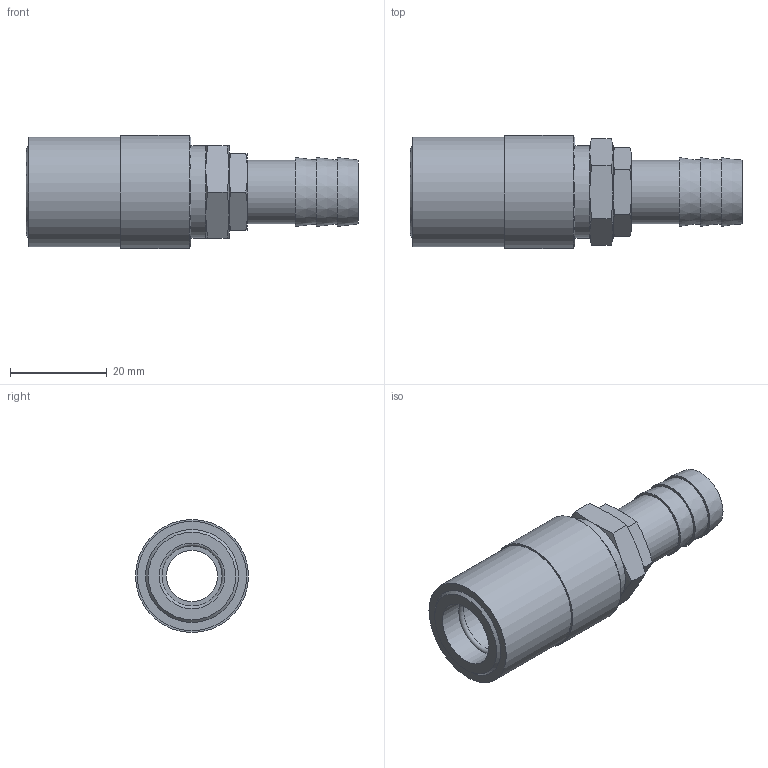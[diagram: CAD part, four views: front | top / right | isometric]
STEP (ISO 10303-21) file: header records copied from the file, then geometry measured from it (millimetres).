
FILE_DESCRIPTION(/* description */ ('STEP AP214'),/* implementation_level */ '2;1');
FILE_NAME(/* name */ 'JS-308-V',/* time_stamp */ '2024-12-19T08:39:52+01:00',/* author */ ('License CC BY-ND 4.0'),/* organization */ ('CADENAS'),/* preprocessor_version */ 'ST-DEVELOPER v19.3',/* originating_system */ 'PARTsolutions',/* authorisation */ ' ');
FILE_SCHEMA (('AUTOMOTIVE_DESIGN {1 0 10303 214 3 1 1}'));
Length unit declared in the file: inch
Products named in the file (1): JS-308-V
Bounding box: 68.64 x 23.37 x 23.37 mm (x, y, z)
Volume: 13587 mm3; surface area: 7367.9 mm2
Topology: 1 solids, 1 shells, 60 faces, 119 edges, 70 vertices
Faces by surface type: cone 29, plane 23, cylinder 7, torus 1
Full cylindrical faces by diameter (mm): 10.566 x1, 13.208 x1, 13.564 x2, 19.05 x1, 22.606 x1, 23.368 x1
Entity records: 1544 total; most frequent: CARTESIAN_POINT 381, DIRECTION 226, ORIENTED_EDGE 212, AXIS2_PLACEMENT_3D 107, EDGE_CURVE 106, EDGE_LOOP 84, FACE_BOUND 84, VERTEX_POINT 70
